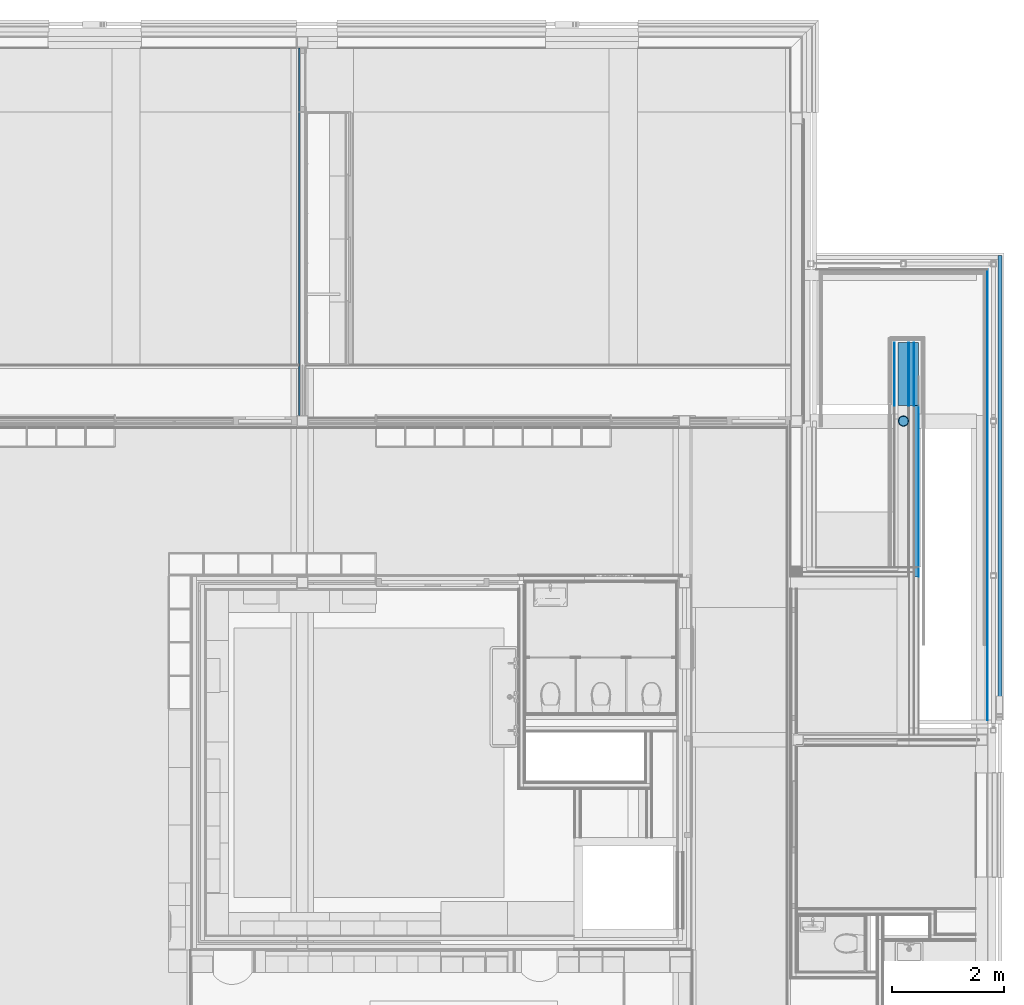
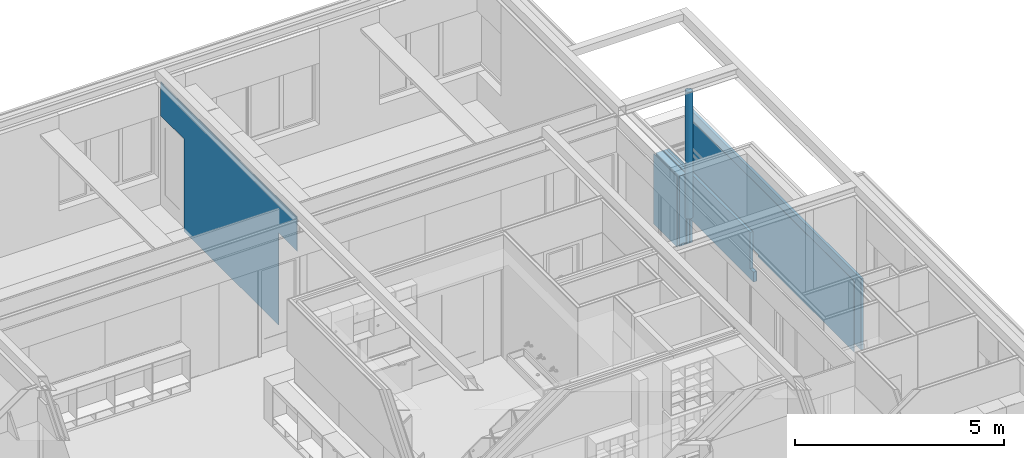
# One storey, part 93 of 137: 15 building element parts, 2 openings, 5 elements without a shape of their own.
"""IFC2X3 building model written with IfcOpenShell, lengths in millimetres."""

from ifc_helpers import new_model, entity, si_unit, converted_unit, derived_unit, money_unit, direction, frame, origin_with_axes, place, context, subcontext, project, spatial, faceted_brep, material, type_object, element, aggregate, save


model = new_model("IFC2X3")

# Units and contexts
model_context = context("Model", 3, precision=0.01, world=origin_with_axes(), true_north=direction((0.0, 1.0)))
body_context = subcontext(model_context, "Body", "Model", "MODEL_VIEW")
ifc_project = project(units=[si_unit("LENGTHUNIT", "METRE", prefix="MILLI"), si_unit("AREAUNIT", "SQUARE_METRE"), si_unit("VOLUMEUNIT", "CUBIC_METRE"), converted_unit("PLANEANGLEUNIT", "DEGREE", entity("IfcPlaneAngleMeasure", 0.0174532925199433), si_unit("PLANEANGLEUNIT", "RADIAN"), dimensions=[0, 0, 0, 0, 0, 0, 0]), money_unit("EUR"), converted_unit("TIMEUNIT", "Year", entity("IfcTimeMeasure", 31556926.0), si_unit("TIMEUNIT", "SECOND"), dimensions=[0, 0, 1, 0, 0, 0, 0]), si_unit("MASSUNIT", "GRAM", prefix="KILO"), si_unit("THERMODYNAMICTEMPERATUREUNIT", "DEGREE_CELSIUS"), si_unit("LUMINOUSINTENSITYUNIT", "LUMEN"), si_unit("ENERGYUNIT", "JOULE", prefix="MEGA"), derived_unit("THERMALCONDUCTANCEUNIT", [(si_unit("POWERUNIT", "WATT"), 1), (si_unit("LENGTHUNIT", "METRE"), -1), (si_unit("THERMODYNAMICTEMPERATUREUNIT", "KELVIN"), -1)]), derived_unit("SPECIFICHEATCAPACITYUNIT", [(si_unit("ENERGYUNIT", "JOULE"), 1), (si_unit("MASSUNIT", "GRAM", prefix="KILO"), -1), (si_unit("THERMODYNAMICTEMPERATUREUNIT", "KELVIN"), -1)]), derived_unit("MASSDENSITYUNIT", [(si_unit("MASSUNIT", "GRAM", prefix="KILO"), 1), (si_unit("VOLUMEUNIT", "CUBIC_METRE"), -1)])], contexts=[model_context])

# Site, building, storey
site_placement = place(None, origin_with_axes())
site = spatial("IfcSite", under=ifc_project, at=site_placement, Name="Site", CompositionType="ELEMENT")
building_placement = place(site_placement, origin_with_axes())
building = spatial("IfcBuilding", under=site, at=building_placement, Name="Naam gebouw", CompositionType="ELEMENT")
storey_placement = place(building_placement, frame((0.0, 0.0, 3960.0), z_axis=(0.0, 0.0, 1.0), x_axis=(1.0, 0.0, 0.0)))
storey = spatial("IfcBuildingStorey", under=building, at=storey_placement, Name="1e verdieping", CompositionType="ELEMENT", Elevation=3960.0)

# Proxy, openings, building element part
building_element_proxy_type = type_object("IfcBuildingElementProxyType", Name="22 Metal stud 125 gips 125", PredefinedType="NOTDEFINED")
proxy_placement = place(storey_placement, frame((17699.99942456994, 29175.0, -100.0000000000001), z_axis=(0.0, 0.0, 1.0), x_axis=(0.0, -1.0, 0.0)))
proxy = element("IfcBuildingElementProxy", 1, at=proxy_placement, inside=storey, type_object=building_element_proxy_type, Name="_Wand-x")
opening_1_placement = place(proxy_placement, frame((6300.00015292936, 0.0, 100.0000000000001), z_axis=(0.0, 0.0, 1.0), x_axis=(1.0, 0.0, 0.0)))
element("IfcOpeningElement", 2, at=opening_1_placement, cuts=proxy, Name="_B.02", context=body_context, shape_type="Brep", body=[
    faceted_brep([(-449.9999999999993, 12.49999999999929, -100.0000000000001), (-449.9999999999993, 12.49999999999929, 2600.0), (-449.9999999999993, 63.50000000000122, 2600.0), (-449.9999999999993, 63.50000000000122, -100.0000000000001), (-449.9999999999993, -63.50000000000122, -100.0000000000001), (-449.9999999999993, -63.50000000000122, 2600.0), (449.9999999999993, 12.49999999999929, 2600.0), (449.9999999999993, 63.50000000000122, 2600.0), (449.9999999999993, -63.50000000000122, 2600.0), (449.9999999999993, 63.50000000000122, -100.0000000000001), (449.9999999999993, 12.49999999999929, -100.0000000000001), (449.9999999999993, -63.50000000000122, -100.0000000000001)], [[[0, 1, 2, 3]], [[1, 0, 4, 5]], [[6, 7, 2, 1, 5, 8]], [[7, 9, 3, 2]], [[0, 3, 9, 10, 11, 4]], [[5, 4, 11, 8]], [[6, 10, 9, 7]], [[10, 6, 8, 11]]]),
])
opening_2_placement = place(proxy_placement, frame((778.9999999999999, 0.0, 100.0000000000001), z_axis=(0.0, 0.0, 1.0), x_axis=(1.0, 0.0, 0.0)))
element("IfcOpeningElement", 3, at=opening_2_placement, cuts=proxy, Name="_01.01", context=body_context, shape_type="Brep", body=[
    faceted_brep([(565.0000000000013, 63.50000000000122, 2600.0), (565.0000000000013, 63.50000000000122, -100.0000000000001), (-565.0000000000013, 63.50000000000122, -100.0000000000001), (-565.0000000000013, 63.50000000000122, 2600.0), (565.0000000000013, -63.50000000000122, 2600.0), (565.0000000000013, -63.50000000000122, -100.0000000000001), (-565.0000000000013, -63.50000000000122, -100.0000000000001), (-565.0000000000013, -63.50000000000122, 2600.0)], [[[0, 1, 2, 3]], [[4, 5, 1, 0]], [[5, 6, 2, 1]], [[6, 7, 3, 2]], [[7, 4, 0, 3]], [[6, 5, 4, 7]]]),
])
ifc_material_1 = material(Name="Gipsplaat")
building_element_part_1_placement = place(proxy_placement, origin_with_axes())
building_element_part_1 = element("IfcBuildingElementPart", 4, at=building_element_part_1_placement, material=ifc_material_1, Name="Gipsplaat", context=body_context, shape_type="Brep", body=[
    faceted_brep([(1344.000000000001, -50.00000000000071, 0.0), (1344.000000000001, -50.00000000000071, 2700.0), (213.9999999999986, -50.00000000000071, 2700.0), (213.9999999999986, -50.00000000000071, 3675.000029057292), (6750.00015292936, -50.00000000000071, 3675.000029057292), (6750.00015292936, -50.00000000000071, 2700.0), (5850.000152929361, -50.00000000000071, 2700.0), (5850.000152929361, -50.00000000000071, 0.0), (1344.000000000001, -62.5, 0.0), (1344.000000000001, -62.5, 2700.0), (213.9999999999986, -62.5, 2700.0), (213.9999999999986, -62.5, 3675.000029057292), (6750.00015292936, -62.5, 3675.000029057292), (6750.00015292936, -62.5, 2700.0), (5850.000152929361, -62.5, 2700.0), (5850.000152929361, -62.5, 0.0)], [[[0, 1, 2, 3, 4, 5, 6, 7]], [[1, 0, 8, 9]], [[10, 2, 1, 9]], [[2, 10, 11, 3]], [[3, 11, 12, 4]], [[5, 4, 12, 13]], [[5, 13, 14, 6]], [[6, 14, 15, 7]], [[8, 0, 7, 15]], [[9, 8, 15, 14, 13, 12, 11, 10]]]),
    faceted_brep([(6750.00015292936, -62.5, 3699.999999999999), (6750.00015292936, -50.00000000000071, 3699.999999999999), (213.9999999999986, -50.00000000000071, 3700.0), (213.9999999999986, -62.5, 3700.0), (6750.00015292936, -50.00000000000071, 3695.000029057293), (6750.00015292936, -62.5, 3695.000029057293), (213.9999999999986, -50.00000000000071, 3695.000029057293), (213.9999999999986, -62.5, 3695.000029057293)], [[[0, 1, 2, 3]], [[4, 1, 0, 5]], [[1, 4, 6, 2]], [[2, 6, 7, 3]], [[5, 0, 3, 7]], [[4, 5, 7, 6]]]),
])
aggregate(proxy, [building_element_part_1])

# Wall, building element parts
wall_type_1 = type_object("IfcWallType", Name="21 Borstwering STO Buitengevelisolatie 439", PredefinedType="NOTDEFINED")
wall_1_placement = place(storey_placement, frame((28500.00002397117, 19550.00039292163, -390.0000000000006), z_axis=(0.0, 0.0, 1.0), x_axis=(0.0, 1.0, 0.0)))
wall_1 = element("IfcWall", 5, at=wall_1_placement, inside=storey, type_object=wall_type_1, Name="21_Wand-x")
ifc_material_2 = material(Name="STO weefsellaag")
building_element_part_2_placement = place(wall_1_placement, origin_with_axes())
building_element_part_2 = element("IfcBuildingElementPart", 6, at=building_element_part_2_placement, material=ifc_material_2, Name="STO weefsellaag", context=body_context, shape_type="Brep", body=[
    faceted_brep([(1534.960266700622, -172.9999999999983, 0.0), (3050.975817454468, -172.9999999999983, 1010.677033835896), (3050.975817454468, -172.9999999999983, 1350.000062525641), (173.0000000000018, -172.9999999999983, 1350.000062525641), (173.0000000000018, -172.9999999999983, 290.0000000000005), (0.0, -172.9999999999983, 290.0000000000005), (0.0, -172.9999999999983, 0.0), (3050.975817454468, -168.0000499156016, 1010.677033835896), (1534.960266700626, -168.0000499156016, 0.0), (3050.975817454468, -167.9999999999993, 1350.000062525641), (173.0000000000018, -167.9999999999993, 1350.000062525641), (173.0000000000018, -167.9999999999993, 290.0000000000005), (0.0, -167.9999999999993, 290.0000000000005), (0.0, -167.9999999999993, 0.0)], [[[0, 1, 2, 3, 4, 5, 6]], [[7, 1, 0, 8]], [[1, 7, 9, 2]], [[3, 2, 9, 10]], [[3, 10, 11, 4]], [[4, 11, 12, 5]], [[12, 13, 6, 5]], [[8, 0, 6, 13]], [[7, 8, 13, 12, 11, 10, 9]]]),
])
ifc_material_3 = material(Name="Isolatie - STO EPS")
building_element_part_3_placement = place(wall_1_placement, origin_with_axes())
building_element_part_3 = element("IfcBuildingElementPart", 7, at=building_element_part_3_placement, material=ifc_material_3, Name="Isolatie - STO EPS", context=body_context, shape_type="Brep", body=[
    faceted_brep([(167.9999999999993, -167.9999999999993, 1350.000062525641), (3050.975817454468, -167.9999999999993, 1350.000062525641), (3050.975817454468, -88.00000000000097, 1350.000062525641), (167.9999999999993, -88.00000000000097, 1350.000062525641), (3050.975817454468, -167.9999999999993, 0.0), (167.9999999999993, -167.9999999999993, 290.0000000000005), (0.0, -167.9999999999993, 290.0000000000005), (0.0, -167.9999999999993, 0.0), (3050.975817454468, -88.00000000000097, 0.0), (0.0, -88.00000317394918, 0.0), (0.0, -88.00000000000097, 290.0000000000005), (167.9999999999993, -88.00000000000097, 290.0000000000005)], [[[0, 1, 2, 3]], [[4, 1, 0, 5, 6, 7]], [[4, 8, 2, 1]], [[8, 9, 10, 11, 3, 2]], [[0, 3, 11, 5]], [[5, 11, 10, 6]], [[10, 9, 7, 6]], [[7, 9, 8, 4]]]),
])
ifc_material_4 = material(Name="STO pleisterlaag")
building_element_part_4_placement = place(wall_1_placement, origin_with_axes())
building_element_part_4 = element("IfcBuildingElementPart", 8, at=building_element_part_4_placement, material=ifc_material_4, Name="STO pleisterlaag", context=body_context, shape_type="Brep", body=[
    faceted_brep([(1534.960266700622, -176.0000499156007, 0.0), (3050.975817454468, -176.0000499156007, 1010.677033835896), (3050.975817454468, -175.9999999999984, 1350.000062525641), (176.0000014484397, -175.9999999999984, 1350.000062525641), (175.9999979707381, -175.9999999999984, 290.0000000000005), (0.0, -175.9999999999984, 290.0000000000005), (0.0, -175.9999999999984, 0.0), (3050.975817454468, -172.9999999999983, 1010.677033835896), (1534.960266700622, -172.9999999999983, 0.0), (3050.975817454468, -172.9999999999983, 1350.000062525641), (176.0000014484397, -172.9999999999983, 1350.000062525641), (175.9999979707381, -172.9999999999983, 290.0000000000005), (0.0, -172.9999999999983, 290.0000000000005), (0.0, -172.9999999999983, 0.0)], [[[0, 1, 2, 3, 4, 5, 6]], [[7, 1, 0, 8]], [[1, 7, 9, 2]], [[3, 2, 9, 10]], [[3, 10, 11, 4]], [[4, 11, 12, 5]], [[12, 13, 6, 5]], [[8, 0, 6, 13]], [[7, 8, 13, 12, 11, 10, 9]]]),
])
aggregate(wall_1, [building_element_part_2, building_element_part_3, building_element_part_4])

wall_2_placement = place(storey_placement, frame((28500.00002397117, 22600.9762103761, -1099.99993747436), z_axis=(0.0, 0.0, 1.0), x_axis=(0.0, 1.0, 0.0)))
wall_2 = element("IfcWall", 9, at=wall_2_placement, inside=storey, type_object=wall_type_1, Name="21_Wand-x")
ifc_material_5 = material(Name="Eternit wit")
building_element_part_5_placement = place(wall_2_placement, origin_with_axes())
building_element_part_5 = element("IfcBuildingElementPart", 10, at=building_element_part_5_placement, material=ifc_material_5, Name="Eternit wit", context=body_context, shape_type="Brep", body=[
    faceted_brep([(1120.000000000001, 263.0000000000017, 0.0), (1120.000000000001, 254.999999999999, 0.0), (0.0, 254.999999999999, 0.0), (0.0, 263.0000000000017, 0.0), (1120.000000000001, 263.0000000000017, 2060.0), (1120.000000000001, 254.999999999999, 2060.0), (0.0, 254.999999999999, 2060.0), (0.0, 263.0000000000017, 2060.0)], [[[0, 1, 2, 3]], [[0, 4, 5, 1]], [[1, 5, 6, 2]], [[3, 2, 6, 7]], [[4, 0, 3, 7]], [[5, 4, 7, 6]]]),
])
ifc_material_6 = material(Name="Isolatie - Kunststof hard")
building_element_part_6_placement = place(wall_2_placement, origin_with_axes())
building_element_part_6 = element("IfcBuildingElementPart", 11, at=building_element_part_6_placement, material=ifc_material_6, Name="Isolatie - Kunststof hard", context=body_context, shape_type="Brep", body=[
    faceted_brep([(1024.000003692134, 150.0000409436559, 0.0), (0.0, 150.0000409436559, 0.0), (0.0, 199.0000000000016, 0.0), (1120.000000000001, 199.0000000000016, 0.0), (1120.000000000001, 15.00000000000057, 0.0), (0.0, 15.00000000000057, 0.0), (0.0, 50.00004094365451, 0.0), (1024.000003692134, 50.00004094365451, 0.0), (1024.000003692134, 55.00004094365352, 0.0), (0.0, 55.00004094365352, 0.0), (0.0, 145.0000409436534, 0.0), (1024.000003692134, 145.0000409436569, 0.0), (1024.000003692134, 150.0000409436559, 69.9999999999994), (0.0, 150.0000409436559, 69.9999999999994), (0.0, 50.00004094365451, 69.9999999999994), (0.0, 15.00000000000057, 2060.0), (0.0, 199.0000000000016, 2060.0), (1120.000000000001, 199.0000000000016, 2060.0), (1120.000000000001, 15.00000000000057, 2060.0), (1024.000003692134, 50.00004094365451, 69.9999999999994), (1024.000003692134, 145.0000409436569, 64.9999999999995), (1024.000003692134, 55.00004094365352, 64.9999999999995), (0.0, 55.00004094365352, 64.9999999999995), (0.0, 145.0000409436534, 64.9999999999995)], [[[0, 1, 2, 3, 4, 5, 6, 7, 8, 9, 10, 11]], [[1, 0, 12, 13]], [[14, 6, 5, 15, 16, 2, 1, 13]], [[16, 17, 3, 2]], [[4, 3, 17, 18]], [[5, 4, 18, 15]], [[7, 6, 14, 19]], [[8, 7, 19, 12, 0, 11, 20, 21]], [[9, 8, 21, 22]], [[23, 10, 9, 22]], [[11, 10, 23, 20]], [[14, 13, 12, 19]], [[15, 18, 17, 16]], [[23, 22, 21, 20]]]),
])
ifc_material_7 = material(Name="Cementgebonden plaatmateriaal")
building_element_part_7_placement = place(wall_2_placement, origin_with_axes())
building_element_part_7 = element("IfcBuildingElementPart", 12, at=building_element_part_7_placement, material=ifc_material_7, Name="Cementgebonden plaatmateriaal", context=body_context, shape_type="Brep", body=[
    faceted_brep([(1120.000000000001, 15.00000000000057, 0.0), (1120.000000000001, 0.0, 0.0), (0.0, 0.0, 0.0), (0.0, 15.00000000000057, 0.0), (1120.000000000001, 15.00000000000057, 2060.0), (1120.000000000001, 0.0, 2060.0), (0.0, 0.0, 2060.0), (0.0, 15.00000000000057, 2060.0)], [[[0, 1, 2, 3]], [[0, 4, 5, 1]], [[1, 5, 6, 2]], [[3, 2, 6, 7]], [[4, 0, 3, 7]], [[5, 4, 7, 6]]]),
])
building_element_part_8_placement = place(wall_2_placement, origin_with_axes())
building_element_part_8 = element("IfcBuildingElementPart", 13, at=building_element_part_8_placement, material=ifc_material_3, Name="Isolatie - STO EPS", context=body_context, shape_type="Brep", body=[
    faceted_brep([(1120.000000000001, -4.000000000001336, 0.0), (1120.000000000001, -83.99999999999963, 0.0), (0.0, -83.99999999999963, 0.0), (0.0, -4.000000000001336, 0.0), (1120.000000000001, -4.000000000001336, 2060.0), (1120.000000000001, -83.99999999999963, 2060.0), (0.0, -83.99999999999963, 2060.0), (0.0, -4.000000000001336, 2060.0)], [[[0, 1, 2, 3]], [[0, 4, 5, 1]], [[1, 5, 6, 2]], [[3, 2, 6, 7]], [[4, 0, 3, 7]], [[5, 4, 7, 6]]]),
])
ifc_material_8 = material(Name="STO lijmlaag")
building_element_part_9_placement = place(wall_2_placement, origin_with_axes())
building_element_part_9 = element("IfcBuildingElementPart", 14, at=building_element_part_9_placement, material=ifc_material_8, Name="STO lijmlaag", context=body_context, shape_type="Brep", body=[
    faceted_brep([(1120.000000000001, -83.99999999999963, 0.0), (1120.000000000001, -88.00000000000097, 0.0), (0.0, -88.00000000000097, 0.0), (0.0, -83.99999999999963, 0.0), (1120.000000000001, -83.99999999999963, 2060.0), (1120.000000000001, -88.00000000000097, 2060.0), (0.0, -88.00000000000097, 2060.0), (0.0, -83.99999999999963, 2060.0)], [[[0, 1, 2, 3]], [[0, 4, 5, 1]], [[1, 5, 6, 2]], [[3, 2, 6, 7]], [[4, 0, 3, 7]], [[5, 4, 7, 6]]]),
])
building_element_part_10_placement = place(wall_2_placement, origin_with_axes())
building_element_part_10 = element("IfcBuildingElementPart", 15, at=building_element_part_10_placement, material=ifc_material_3, Name="Isolatie - STO EPS", context=body_context, shape_type="Brep", body=[
    faceted_brep([(0.0, -88.00000000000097, 0.0), (1120.000000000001, -88.00000000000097, 0.0), (1120.000000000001, -167.9999999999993, 0.0), (0.0, -167.9999999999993, 0.0), (0.0, -88.00000000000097, 2060.0), (1120.000000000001, -88.00000000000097, 2060.0), (1120.000000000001, -167.9999999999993, 2060.0), (0.0, -167.9999999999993, 2060.0)], [[[0, 1, 2, 3]], [[4, 5, 1, 0]], [[2, 1, 5, 6]], [[3, 2, 6, 7]], [[4, 0, 3, 7]], [[7, 6, 5, 4]]]),
])
building_element_part_11_placement = place(wall_2_placement, origin_with_axes())
building_element_part_11 = element("IfcBuildingElementPart", 16, at=building_element_part_11_placement, material=ifc_material_8, Name="STO lijmlaag", context=body_context, shape_type="Brep", body=[
    faceted_brep([(1120.000000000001, 0.0, 0.0), (1120.000000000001, -4.000000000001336, 0.0), (0.0, -4.000000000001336, 0.0), (0.0, 0.0, 0.0), (1120.000000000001, 0.0, 2060.0), (1120.000000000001, -4.000000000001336, 2060.0), (0.0, -4.000000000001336, 2060.0), (0.0, 0.0, 2060.0)], [[[0, 1, 2, 3]], [[0, 4, 5, 1]], [[1, 5, 6, 2]], [[3, 2, 6, 7]], [[4, 0, 3, 7]], [[5, 4, 7, 6]]]),
])
aggregate(wall_2, [building_element_part_5, building_element_part_6, building_element_part_7, building_element_part_8, building_element_part_9, building_element_part_10, building_element_part_11])

wall_type_2 = type_object("IfcWallType", Name="21 Buitenwand metselwerk - metselwerk 258", PredefinedType="NOTDEFINED")
wall_3_placement = place(storey_placement, frame((30149.99999999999, 16999.99778166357, -1349.999991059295), z_axis=(0.0, 0.0, 1.0), x_axis=(0.0, 1.0, 0.0)))
wall_3 = element("IfcWall", 17, at=wall_3_placement, inside=storey, type_object=wall_type_2, Name="21_Wand-x")
ifc_material_9 = material(Name="Rockpanel RAL 1001")
building_element_part_12_placement = place(wall_3_placement, origin_with_axes())
building_element_part_12 = element("IfcBuildingElementPart", 18, at=building_element_part_12_placement, material=ifc_material_9, Name="Rockpanel RAL 1001", context=body_context, shape_type="Brep", body=[
    faceted_brep([(5420.978434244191, 250.0000041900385, 0.0), (5420.978434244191, 250.0000078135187, 11.9999910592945), (8024.978438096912, 250.000000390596, 11.9999910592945), (8024.978438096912, 250.0000078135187, 240.0496818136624), (5455.498405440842, 250.0000078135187, 240.0496818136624), (5440.423869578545, 249.999999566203, 229.9999910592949), (5625.002065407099, 250.0, 229.9999910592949), (5625.002065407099, 250.0, 29.99999105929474), (5425.002065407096, 250.0, 29.99999105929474), (5425.002063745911, 249.9999999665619, 219.7187869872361), (5122.738609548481, 250.0000078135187, 18.20981392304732), (5095.423888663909, 250.0000047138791, 0.0), (5420.978434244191, 257.9999999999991, 0.0), (5420.978434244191, 257.9999999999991, 11.9999910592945), (8024.978438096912, 257.9999999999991, 11.9999910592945), (8024.978438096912, 257.9999999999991, 240.0496818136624), (5455.498405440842, 257.9999999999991, 240.0496818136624), (5440.423875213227, 257.9999999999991, 229.9999910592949), (5625.002065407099, 257.9999999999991, 229.9999910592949), (5625.002065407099, 257.9999999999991, 29.99999105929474), (5425.002065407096, 257.9999999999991, 29.99999105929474), (5425.002065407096, 257.9999999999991, 219.7187845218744), (5095.423888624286, 257.9999999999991, 0.0)], [[[0, 1, 2, 3, 4, 5, 6, 7, 8, 9, 10, 11]], [[1, 0, 12, 13]], [[14, 2, 1, 13]], [[2, 14, 15, 3]], [[16, 4, 3, 15]], [[5, 4, 16, 17]], [[6, 5, 17, 18]], [[18, 19, 7, 6]], [[19, 20, 8, 7]], [[20, 21, 9, 8]], [[11, 10, 9, 21, 22]], [[12, 0, 11, 22]], [[13, 12, 22, 21, 20, 19, 18, 17, 16, 15, 14]]]),
    faceted_brep([(5160.998796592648, 249.9999982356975, 260.0496818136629), (5122.738609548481, 250.0000078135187, 440.0496818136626), (8024.978438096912, 250.0000078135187, 440.0496818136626), (8024.978438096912, 250.0, 2074.999991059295), (0.0, 250.0, 2074.999991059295), (0.0, 250.0, 0.0), (4599.753700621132, 249.9999968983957, 0.0), (4582.73861549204, 249.9999968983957, 80.04968181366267), (4890.998796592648, 249.9999982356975, 80.04968181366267), (4852.738615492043, 249.9999982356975, 260.0496818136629), (5122.738609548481, 257.9999999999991, 440.0496818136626), (5160.998796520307, 257.9999999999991, 260.0496818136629), (8024.978438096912, 257.9999999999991, 440.0496818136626), (8024.978438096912, 257.9999999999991, 2074.999991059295), (0.0, 257.9999999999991, 2074.999991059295), (0.0, 257.9999999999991, 0.0), (4599.753700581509, 257.9999999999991, 0.0), (4582.738615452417, 257.9999999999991, 80.04968181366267), (4890.998796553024, 257.9999999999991, 80.04968181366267), (4852.73861545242, 257.9999999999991, 260.0496818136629)], [[[0, 1, 2, 3, 4, 5, 6, 7, 8, 9]], [[10, 1, 0, 11]], [[10, 12, 2, 1]], [[3, 2, 12, 13]], [[14, 4, 3, 13]], [[5, 4, 14, 15]], [[15, 16, 6, 5]], [[17, 7, 6, 16]], [[18, 8, 7, 17]], [[19, 9, 8, 18]], [[19, 11, 0, 9]], [[10, 11, 19, 18, 17, 16, 15, 14, 13, 12]]]),
])
ifc_material_10 = material(Name="Steen - Baksteen")
building_element_part_13_placement = place(wall_3_placement, origin_with_axes())
building_element_part_13 = element("IfcBuildingElementPart", 19, at=building_element_part_13_placement, material=ifc_material_10, Name="Steen - Baksteen", context=body_context, shape_type="Brep", body=[
    faceted_brep([(8274.978438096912, 70.00000000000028, 0.0), (8274.978438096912, 0.0, 0.0), (0.0, 0.0, 0.0), (0.0, 70.00000000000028, 0.0), (8274.978438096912, 70.00000000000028, 2074.999991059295), (8274.978438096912, 0.0, 2074.999991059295), (0.0, 0.0, 2074.999991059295), (0.0, 70.00000000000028, 2074.999991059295)], [[[0, 1, 2, 3]], [[1, 0, 4, 5]], [[1, 5, 6, 2]], [[7, 3, 2, 6]], [[4, 0, 3, 7]], [[5, 4, 7, 6]]]),
])
aggregate(wall_3, [building_element_part_12, building_element_part_13])

# Column, building element parts
column_type = type_object("IfcColumnType", Name="193.7X12.5 194 x 194", PredefinedType="COLUMN")
column_placement = place(storey_placement, frame((28399.99998415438, 22324.99984707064, -100.0000000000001), z_axis=(0.0, 0.0, 1.0), x_axis=(1.0, 0.0, 0.0)))
column = element("IfcColumn", 20, at=column_placement, inside=storey, type_object=column_type, Name="28_Kolom-x", ObjectType="COLUMN")
ifc_material_11 = material(Name="Beton gewapend C")
building_element_part_14_placement = place(column_placement, origin_with_axes())
building_element_part_14 = element("IfcBuildingElementPart", 21, at=building_element_part_14_placement, material=ifc_material_11, Name="Beton gewapend C", context=body_context, shape_type="Brep", body=[
    faceted_brep([(84.35000000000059, 0.0, 3699.999999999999), (84.35000000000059, 0.0, 0.0), (80.93323232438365, 23.76414116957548, 0.0), (80.93323232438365, 23.76414116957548, 3699.999999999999), (80.93323232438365, -23.76414116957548, 3699.999999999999), (80.93323232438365, -23.76414116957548, 0.0), (70.95973549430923, -45.6030529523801, 0.0), (55.23750290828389, -63.74747659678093, 0.0), (35.04025634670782, -76.72745880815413, 0.0), (12.00425660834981, -83.49143862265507, 0.0), (-12.00425660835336, -83.49143862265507, 0.0), (-35.04025634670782, -76.72745880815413, 0.0), (-55.23750290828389, -63.74747659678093, 0.0), (-70.95973549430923, -45.6030529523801, 0.0), (-80.93323232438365, -23.76414116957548, 0.0), (-84.35000000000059, 0.0, 0.0), (-80.93323232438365, 23.76414116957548, 0.0), (-70.95973549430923, 45.6030529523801, 0.0), (-55.23750290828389, 63.74747659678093, 0.0), (-35.04025634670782, 76.72745880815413, 0.0), (-12.00425660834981, 83.49143862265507, 0.0), (12.00425660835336, 83.49143862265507, 0.0), (35.04025634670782, 76.72745880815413, 0.0), (55.23750290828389, 63.74747659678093, 0.0), (70.95973549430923, 45.6030529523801, 0.0), (70.95973549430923, 45.6030529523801, 3699.999999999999), (55.23750290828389, 63.74747659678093, 3699.999999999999), (35.04025634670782, 76.72745880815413, 3699.999999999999), (12.00425660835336, 83.49143862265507, 3699.999999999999), (-12.00425660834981, 83.49143862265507, 3699.999999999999), (-35.04025634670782, 76.72745880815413, 3699.999999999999), (-55.23750290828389, 63.74747659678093, 3699.999999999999), (-70.95973549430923, 45.6030529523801, 3699.999999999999), (-80.93323232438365, 23.76414116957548, 3699.999999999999), (-84.35000000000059, 0.0, 3699.999999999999), (-80.93323232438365, -23.76414116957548, 3699.999999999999), (-70.95973549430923, -45.6030529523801, 3699.999999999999), (-55.23750290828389, -63.74747659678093, 3699.999999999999), (-35.04025634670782, -76.72745880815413, 3699.999999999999), (-12.00425660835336, -83.49143862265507, 3699.999999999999), (12.00425660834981, -83.49143862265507, 3699.999999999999), (35.04025634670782, -76.72745880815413, 3699.999999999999), (55.23750290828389, -63.74747659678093, 3699.999999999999), (70.95973549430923, -45.6030529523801, 3699.999999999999)], [[[0, 1, 2, 3]], [[4, 5, 1, 0]], [[2, 1, 5, 6, 7, 8, 9, 10, 11, 12, 13, 14, 15, 16, 17, 18, 19, 20, 21, 22, 23, 24]], [[3, 2, 24, 25]], [[4, 0, 3, 25, 26, 27, 28, 29, 30, 31, 32, 33, 34, 35, 36, 37, 38, 39, 40, 41, 42, 43]], [[43, 6, 5, 4]], [[42, 7, 6, 43]], [[41, 8, 7, 42]], [[40, 9, 8, 41]], [[39, 10, 9, 40]], [[38, 11, 10, 39]], [[37, 12, 11, 38]], [[36, 13, 12, 37]], [[35, 14, 13, 36]], [[34, 15, 14, 35]], [[33, 16, 15, 34]], [[32, 17, 16, 33]], [[31, 18, 17, 32]], [[30, 19, 18, 31]], [[29, 20, 19, 30]], [[28, 21, 20, 29]], [[27, 22, 21, 28]], [[26, 23, 22, 27]], [[25, 24, 23, 26]]]),
])
ifc_material_12 = material(Name="Metaal - Staal C")
building_element_part_15_placement = place(column_placement, origin_with_axes())
building_element_part_15 = element("IfcBuildingElementPart", 22, at=building_element_part_15_placement, material=ifc_material_12, Name="Metaal - Staal C", context=body_context, shape_type="Brep", body=[
    faceted_brep([(96.84999999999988, 0.0, 0.0), (92.92689449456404, 27.28579813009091, 0.0), (92.92689449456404, 27.28579813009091, 3699.999999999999), (96.84999999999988, 0.0, 3699.999999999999), (92.92689449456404, -27.28579813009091, 0.0), (81.47540465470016, -52.36106317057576, 0.0), (63.42326208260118, -73.19434627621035, 0.0), (40.23294400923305, -88.09785875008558, 0.0), (13.78319208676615, -95.86420664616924, 0.0), (-13.78319208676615, -95.86420664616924, 0.0), (-40.23294400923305, -88.09785875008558, 0.0), (-63.42326208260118, -73.19434627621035, 0.0), (-81.47540465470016, -52.36106317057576, 0.0), (-92.92689449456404, -27.28579813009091, 0.0), (-96.84999999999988, 0.0, 0.0), (-92.92689449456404, 27.28579813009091, 0.0), (-81.47540465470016, 52.36106317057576, 0.0), (-63.42326208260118, 73.19434627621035, 0.0), (-40.23294400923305, 88.09785875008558, 0.0), (-13.78319208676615, 95.86420664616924, 0.0), (13.78319208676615, 95.86420664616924, 0.0), (40.23294400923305, 88.09785875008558, 0.0), (63.42326208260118, 73.19434627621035, 0.0), (81.47540465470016, 52.36106317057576, 0.0), (84.35000000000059, 0.0, 0.0), (80.93323232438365, 23.76414116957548, 0.0), (70.95973549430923, 45.6030529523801, 0.0), (55.23750290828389, 63.74747659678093, 0.0), (35.04025634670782, 76.72745880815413, 0.0), (12.00425660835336, 83.49143862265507, 0.0), (-12.00425660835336, 83.49143862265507, 0.0), (-35.04025634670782, 76.72745880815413, 0.0), (-55.23750290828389, 63.74747659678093, 0.0), (-70.95973549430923, 45.6030529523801, 0.0), (-80.93323232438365, 23.76414116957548, 0.0), (-84.35000000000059, 0.0, 0.0), (-80.93323232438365, -23.76414116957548, 0.0), (-70.95973549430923, -45.6030529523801, 0.0), (-55.23750290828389, -63.74747659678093, 0.0), (-35.04025634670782, -76.72745880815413, 0.0), (-12.00425660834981, -83.49143862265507, 0.0), (12.00425660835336, -83.49143862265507, 0.0), (35.04025634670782, -76.72745880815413, 0.0), (55.23750290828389, -63.74747659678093, 0.0), (70.95973549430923, -45.6030529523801, 0.0), (80.93323232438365, -23.76414116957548, 0.0), (81.47540465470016, 52.36106317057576, 3699.999999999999), (63.42326208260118, 73.19434627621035, 3699.999999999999), (40.23294400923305, 88.09785875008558, 3699.999999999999), (13.78319208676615, 95.86420664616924, 3699.999999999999), (-13.78319208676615, 95.86420664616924, 3699.999999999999), (-40.23294400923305, 88.09785875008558, 3699.999999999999), (-63.42326208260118, 73.19434627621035, 3699.999999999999), (-81.47540465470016, 52.36106317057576, 3699.999999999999), (-92.92689449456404, 27.28579813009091, 3699.999999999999), (-96.84999999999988, 0.0, 3699.999999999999), (-92.92689449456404, -27.28579813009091, 3699.999999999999), (-81.47540465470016, -52.36106317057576, 3699.999999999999), (-63.42326208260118, -73.19434627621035, 3699.999999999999), (-40.23294400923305, -88.09785875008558, 3699.999999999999), (-13.78319208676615, -95.86420664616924, 3699.999999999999), (13.78319208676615, -95.86420664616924, 3699.999999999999), (40.23294400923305, -88.09785875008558, 3699.999999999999), (63.42326208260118, -73.19434627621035, 3699.999999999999), (81.47540465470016, -52.36106317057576, 3699.999999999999), (92.92689449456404, -27.28579813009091, 3699.999999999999), (84.35000000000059, 0.0, 3699.999999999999), (80.93323232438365, -23.76414116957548, 3699.999999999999), (70.95973549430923, -45.6030529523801, 3699.999999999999), (55.23750290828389, -63.74747659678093, 3699.999999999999), (35.04025634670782, -76.72745880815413, 3699.999999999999), (12.00425660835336, -83.49143862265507, 3699.999999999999), (-12.00425660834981, -83.49143862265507, 3699.999999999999), (-35.04025634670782, -76.72745880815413, 3699.999999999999), (-55.23750290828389, -63.74747659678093, 3699.999999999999), (-70.95973549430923, -45.6030529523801, 3699.999999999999), (-80.93323232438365, -23.76414116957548, 3699.999999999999), (-84.35000000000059, 0.0, 3699.999999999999), (-80.93323232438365, 23.76414116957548, 3699.999999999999), (-70.95973549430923, 45.6030529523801, 3699.999999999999), (-55.23750290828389, 63.74747659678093, 3699.999999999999), (-35.04025634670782, 76.72745880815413, 3699.999999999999), (-12.00425660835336, 83.49143862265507, 3699.999999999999), (12.00425660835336, 83.49143862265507, 3699.999999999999), (35.04025634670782, 76.72745880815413, 3699.999999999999), (55.23750290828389, 63.74747659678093, 3699.999999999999), (70.95973549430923, 45.6030529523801, 3699.999999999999), (80.93323232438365, 23.76414116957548, 3699.999999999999)], [[[0, 1, 2, 3]], [[0, 4, 5, 6, 7, 8, 9, 10, 11, 12, 13, 14, 15, 16, 17, 18, 19, 20, 21, 22, 23, 1], [24, 25, 26, 27, 28, 29, 30, 31, 32, 33, 34, 35, 36, 37, 38, 39, 40, 41, 42, 43, 44, 45]], [[1, 23, 46, 2]], [[3, 2, 46, 47, 48, 49, 50, 51, 52, 53, 54, 55, 56, 57, 58, 59, 60, 61, 62, 63, 64, 65], [66, 67, 68, 69, 70, 71, 72, 73, 74, 75, 76, 77, 78, 79, 80, 81, 82, 83, 84, 85, 86, 87]], [[4, 0, 3, 65]], [[5, 4, 65, 64]], [[6, 5, 64, 63]], [[7, 6, 63, 62]], [[8, 7, 62, 61]], [[9, 8, 61, 60]], [[10, 9, 60, 59]], [[11, 10, 59, 58]], [[12, 11, 58, 57]], [[13, 12, 57, 56]], [[14, 13, 56, 55]], [[15, 14, 55, 54]], [[16, 15, 54, 53]], [[17, 16, 53, 52]], [[18, 17, 52, 51]], [[19, 18, 51, 50]], [[20, 19, 50, 49]], [[21, 20, 49, 48]], [[22, 21, 48, 47]], [[23, 22, 47, 46]], [[25, 24, 66, 87]], [[26, 25, 87, 86]], [[27, 26, 86, 85]], [[28, 27, 85, 84]], [[29, 28, 84, 83]], [[30, 29, 83, 82]], [[31, 30, 82, 81]], [[32, 31, 81, 80]], [[33, 32, 80, 79]], [[34, 33, 79, 78]], [[35, 34, 78, 77]], [[36, 35, 77, 76]], [[37, 36, 76, 75]], [[38, 37, 75, 74]], [[39, 38, 74, 73]], [[40, 39, 73, 72]], [[41, 40, 72, 71]], [[42, 41, 71, 70]], [[43, 42, 70, 69]], [[44, 43, 69, 68]], [[45, 44, 68, 67]], [[24, 45, 67, 66]]]),
])
aggregate(column, [building_element_part_14, building_element_part_15])

save(model, "model.ifc")
